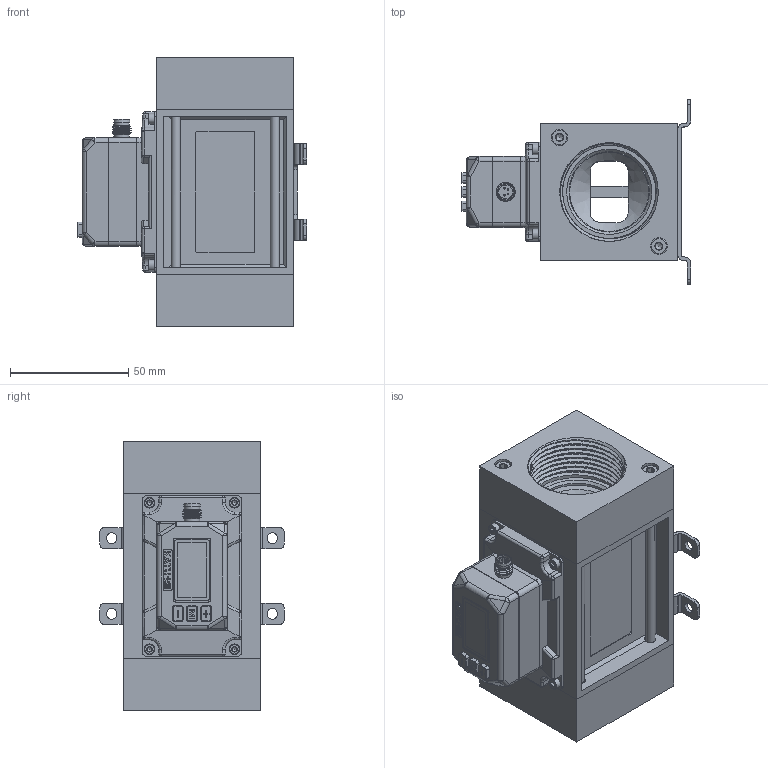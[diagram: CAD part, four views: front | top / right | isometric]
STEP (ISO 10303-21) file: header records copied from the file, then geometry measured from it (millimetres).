
FILE_DESCRIPTION( (''), '2;1');
FILE_NAME( 'QEKJ_200L_R1_1.step', '2026-09-29T16:20:25+08:00', (''), (''), '', '', '');
FILE_SCHEMA (('AUTOMOTIVE_DESIGN { 1 0 10303 214 3 1 1 1 }'));
Length unit declared in the file: millimetre
Products named in the file (1): QEKJ 200L_R1_1
Bounding box: 97.1 x 78 x 114 mm (x, y, z)
Volume: 228037.6 mm3; surface area: 115014.6 mm2
Topology: 19 solids, 20 shells, 1449 faces, 3540 edges, 2215 vertices
Faces by surface type: plane 796, cylinder 395, cone 129, torus 56, extrusion 33, sphere 28, bspline 12
Full cylindrical faces by diameter (mm): 0.6 x4, 1.6 x4, 2 x3, 2.05 x8, 2.38 x4, 2.8 x4, 3 x4, 3.3 x4, 3.838 x8, 4 x1, 4.5 x20, 5 x8, 5.8 x1, 6.5 x10, 7 x16, 34 x2, 40 x2
Entity records: 47870 total; most frequent: CARTESIAN_POINT 13849, DIRECTION 6790, ORIENTED_EDGE 6508, EDGE_CURVE 3254, AXIS2_PLACEMENT_3D 2387, VERTEX_POINT 2156, VECTOR 2016, LINE 1983
